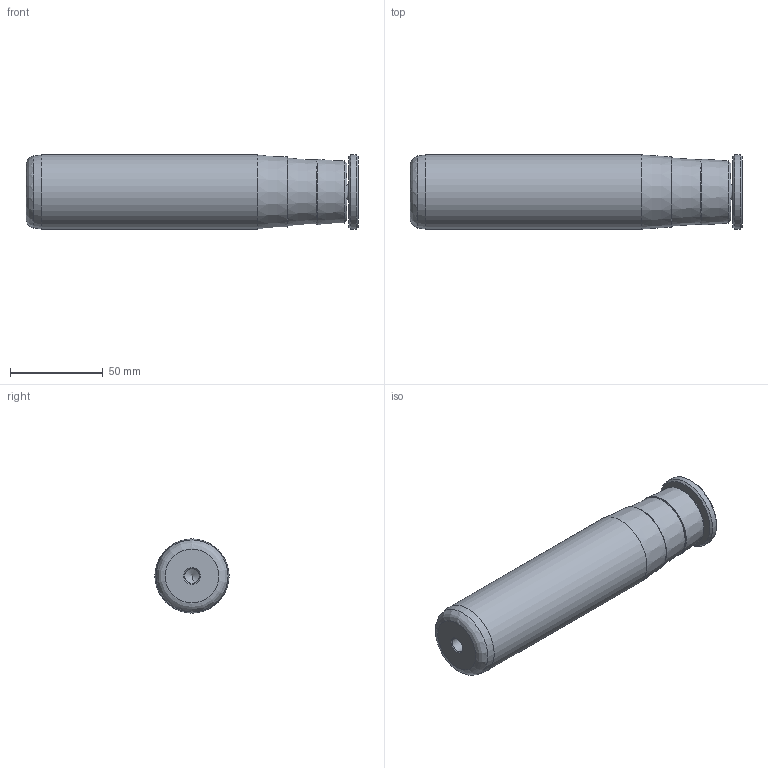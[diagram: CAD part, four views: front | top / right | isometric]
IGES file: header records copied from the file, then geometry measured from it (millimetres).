
Global section: file name: C5A40140.ipt; native system: Autodesk Inventor 2021; preprocessor: unknown; author: SM; date: 20211217.123112; units: millimetre
Bounding box: 179 x 40 x 40 mm (x, y, z)
Volume: 210248.4 mm3; surface area: 27912.8 mm2
Topology: 3 solids, 3 shells, 61 faces, 149 edges, 96 vertices
Faces by surface type: plane 32, revolution 13, cone 9, cylinder 4, bspline 3
Full cylindrical faces by diameter (mm): 8 x1, 15.879 x1, 40 x2
